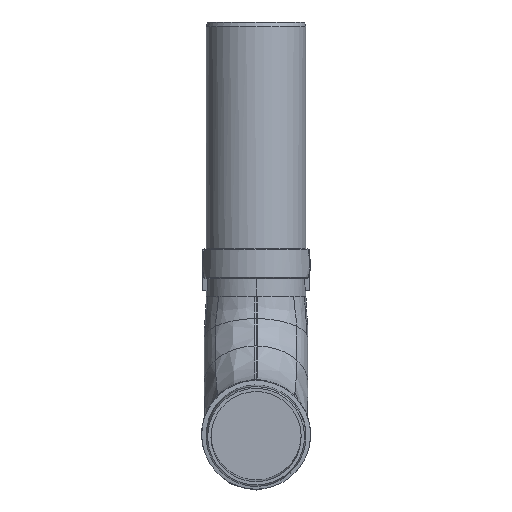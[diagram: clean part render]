
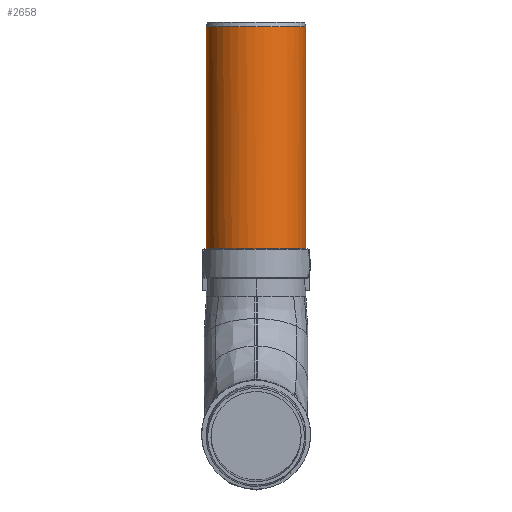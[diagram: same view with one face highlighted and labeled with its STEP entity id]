
A CAD part, front view. The second image highlights one B-rep face of the part: STEP entity #2658.
In plain terms, the highlighted cylindrical face has radius 45.1 mm (diameter 90.2 mm), a full revolution.
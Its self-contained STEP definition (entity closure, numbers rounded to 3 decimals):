
#147=CYLINDRICAL_SURFACE('',#2841,45.1);
#187=FACE_OUTER_BOUND('',#336,.T.);
#336=EDGE_LOOP('',(#1718,#1719,#1720,#1721,#1722));
#475=LINE('',#5430,#530);
#530=VECTOR('',#3090,45.1);
#608=CIRCLE('',#2842,45.1);
#609=CIRCLE('',#2843,45.1);
#610=CIRCLE('',#2844,45.1);
#986=VERTEX_POINT('',#5427);
#987=VERTEX_POINT('',#5429);
#988=VERTEX_POINT('',#5431);
#1279=EDGE_CURVE('',#986,#986,#608,.T.);
#1280=EDGE_CURVE('',#986,#987,#475,.T.);
#1281=EDGE_CURVE('',#987,#988,#609,.T.);
#1282=EDGE_CURVE('',#988,#987,#610,.T.);
#1718=ORIENTED_EDGE('',*,*,#1279,.F.);
#1719=ORIENTED_EDGE('',*,*,#1280,.T.);
#1720=ORIENTED_EDGE('',*,*,#1281,.T.);
#1721=ORIENTED_EDGE('',*,*,#1282,.T.);
#1722=ORIENTED_EDGE('',*,*,#1280,.F.);
#2658=ADVANCED_FACE('',(#187),#147,.T.);
#2841=AXIS2_PLACEMENT_3D('',#5426,#3086,#3087);
#2842=AXIS2_PLACEMENT_3D('',#5428,#3088,#3089);
#2843=AXIS2_PLACEMENT_3D('',#5432,#3091,#3092);
#2844=AXIS2_PLACEMENT_3D('',#5433,#3093,#3094);
#3086=DIRECTION('center_axis',(0.,0.,1.));
#3087=DIRECTION('ref_axis',(-0.479,0.878,0.));
#3088=DIRECTION('center_axis',(0.,0.,1.));
#3089=DIRECTION('ref_axis',(-0.479,0.878,0.));
#3090=DIRECTION('',(0.,0.,-1.));
#3091=DIRECTION('center_axis',(0.,0.,1.));
#3092=DIRECTION('ref_axis',(-0.479,0.878,0.));
#3093=DIRECTION('center_axis',(0.,0.,1.));
#3094=DIRECTION('ref_axis',(-0.479,0.878,0.));
#5426=CARTESIAN_POINT('Origin',(0.,0.108,250.6));
#5427=CARTESIAN_POINT('',(21.622,-39.471,362.1));
#5428=CARTESIAN_POINT('Origin',(0.,0.108,362.1));
#5429=CARTESIAN_POINT('',(21.622,-39.471,161.6));
#5430=CARTESIAN_POINT('',(21.622,-39.471,250.6));
#5431=CARTESIAN_POINT('',(0.,-44.992,161.6));
#5432=CARTESIAN_POINT('Origin',(0.,0.108,161.6));
#5433=CARTESIAN_POINT('Origin',(0.,0.108,161.6));
